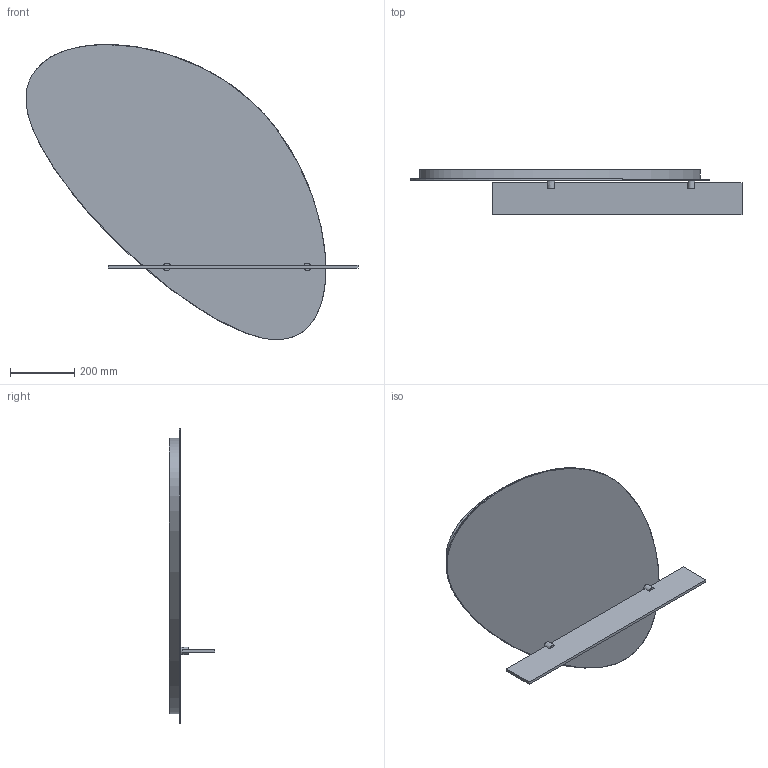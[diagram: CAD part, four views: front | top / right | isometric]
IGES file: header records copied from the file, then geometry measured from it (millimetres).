
Global section: file name: \\Archi-NAS\Comune\X GIOVANNI\SPECCHI\MIRR SHELF\MIRR SHELF_SOFT.igs; native system: Rhinoceros ( Feb 23 2021 ); preprocessor: Trout Lake IGES 012 Feb 23 2021; date: 230608.080547; units: millimetre
Bounding box: 1031.33 x 140 x 917.07 mm (x, y, z)
Surface area: 2283958.9 mm2 (no closed solid volume)
Topology: 0 solids, 0 shells, 26 faces, 542 edges, 538 vertices
Faces by surface type: bspline 26
